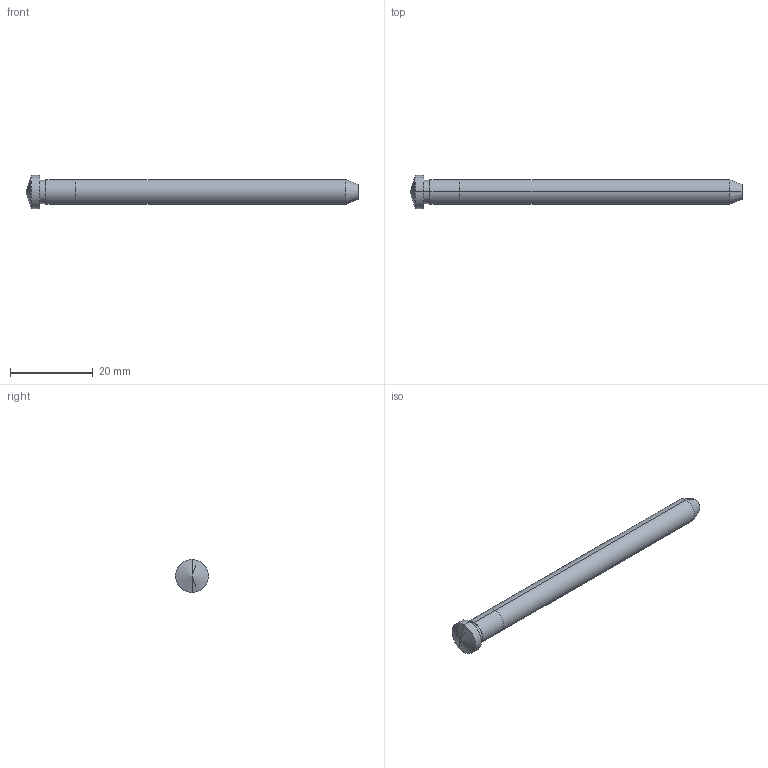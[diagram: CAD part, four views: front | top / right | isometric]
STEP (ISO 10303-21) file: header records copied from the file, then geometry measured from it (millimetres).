
FILE_DESCRIPTION (( 'STEP AP214' ), '1' );
FILE_NAME ('IPWC_06x080.STEP', '2020-04-23T20:04:22', ( '' ), ( '' ), 'SwSTEP 2.0', 'SolidWorks 2014', '' );
FILE_SCHEMA (( 'AUTOMOTIVE_DESIGN' ));
Length unit declared in the file: millimetre
Products named in the file (1): IPWC_06x080
Bounding box: 80 x 8 x 8 mm (x, y, z)
Volume: 2256.8 mm3; surface area: 1578.8 mm2
Topology: 1 solids, 1 shells, 16 faces, 32 edges, 19 vertices
Faces by surface type: cylinder 8, cone 4, plane 4
Entity records: 442 total; most frequent: DIRECTION 82, CARTESIAN_POINT 66, ORIENTED_EDGE 60, AXIS2_PLACEMENT_3D 35, EDGE_CURVE 30, EDGE_LOOP 19, VERTEX_POINT 19, CIRCLE 18
